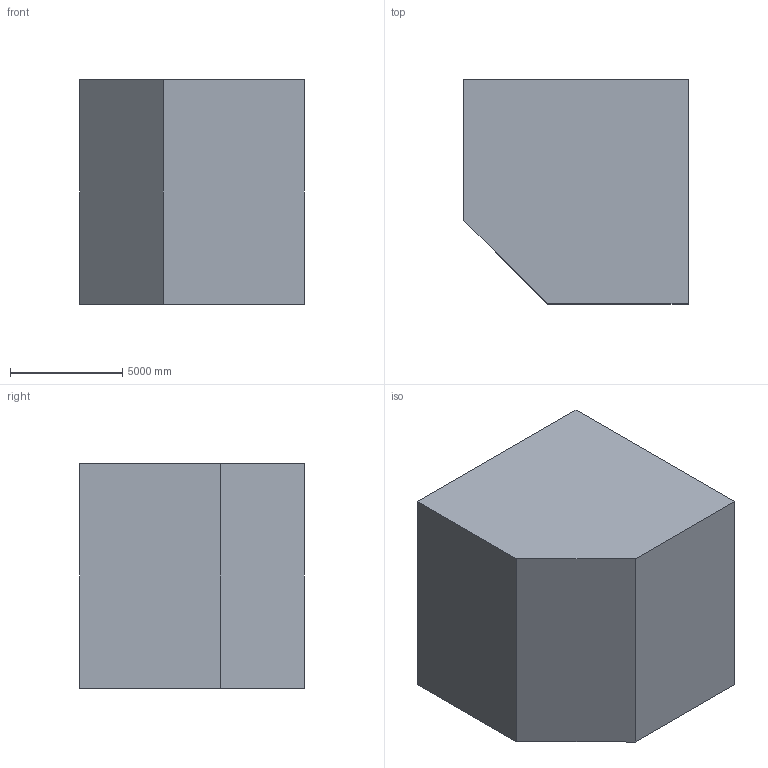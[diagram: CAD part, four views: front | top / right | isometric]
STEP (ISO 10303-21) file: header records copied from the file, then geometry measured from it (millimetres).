
FILE_DESCRIPTION (( 'STEP AP203' ), '1' );
FILE_NAME ('9.STEP', '2022-09-01T11:35:30', ( 'user' ), ( '' ), 'SwSTEP 2.0', 'SolidWorks 2021', '' );
FILE_SCHEMA (( 'CONFIG_CONTROL_DESIGN' ));
Length unit declared in the file: centimetre
Products named in the file (1): 9
Bounding box: 10000 x 10000 x 10000 mm (x, y, z)
Volume: 924173842002.3 mm3; surface area: 578883214.6 mm2
Topology: 1 solids, 1 shells, 14 faces, 33 edges, 22 vertices
Faces by surface type: plane 14
Entity records: 474 total; most frequent: CARTESIAN_POINT 70, ORIENTED_EDGE 66, DIRECTION 63, VECTOR 33, LINE 33, EDGE_CURVE 33, VERTEX_POINT 22, AXIS2_PLACEMENT_3D 15
